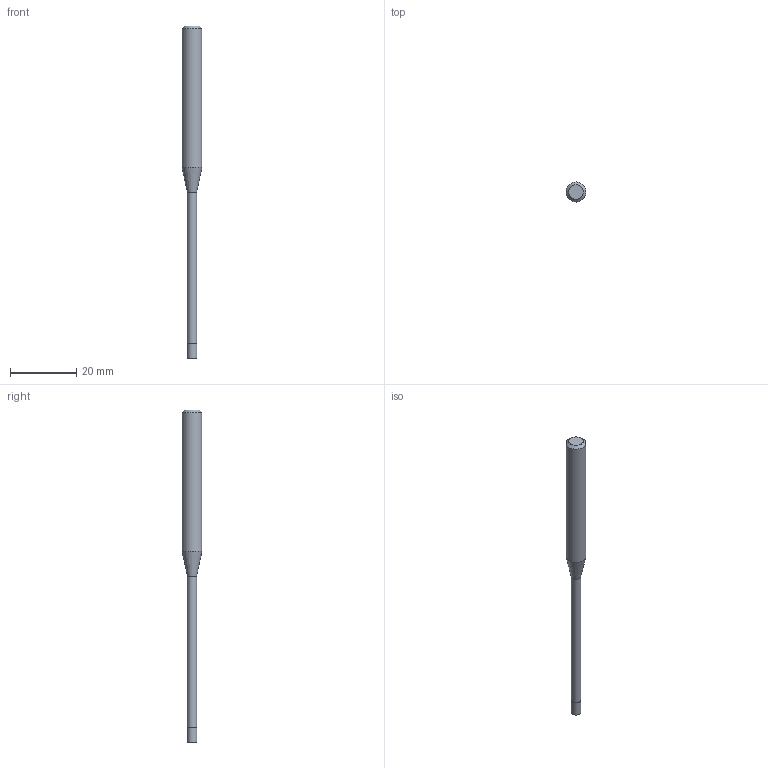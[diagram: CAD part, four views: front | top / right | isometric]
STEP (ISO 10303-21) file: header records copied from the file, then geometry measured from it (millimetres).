
FILE_DESCRIPTION((''),'2;1');
FILE_NAME('C:\Users\nsx150\AppData\Local\Temp\Mastercam 2021\17T8Q8S9EB\TEMP.step','2021-04-21T14:28:36',(''),(''),'STEP Write','Mastercam 2021 ... CNC Software, Inc.','');
FILE_SCHEMA(('AUTOMOTIVE_DESIGN'));
Length unit declared in the file: millimetre
Products named in the file (1): None
Bounding box: 6 x 6 x 100 mm (x, y, z)
Volume: 1639.5 mm3; surface area: 1397 mm2
Topology: 2 solids, 2 shells, 9 faces, 12 edges, 7 vertices
Faces by surface type: plane 4, cylinder 3, cone 2
Full cylindrical faces by diameter (mm): 2.85 x1, 3 x1, 6 x1
Entity records: 211 total; most frequent: DIRECTION 36, CARTESIAN_POINT 25, AXIS2_PLACEMENT_3D 18, ORIENTED_EDGE 14, EDGE_LOOP 14, STYLED_ITEM 12, ADVANCED_FACE 9, FACE_BOUND 8
